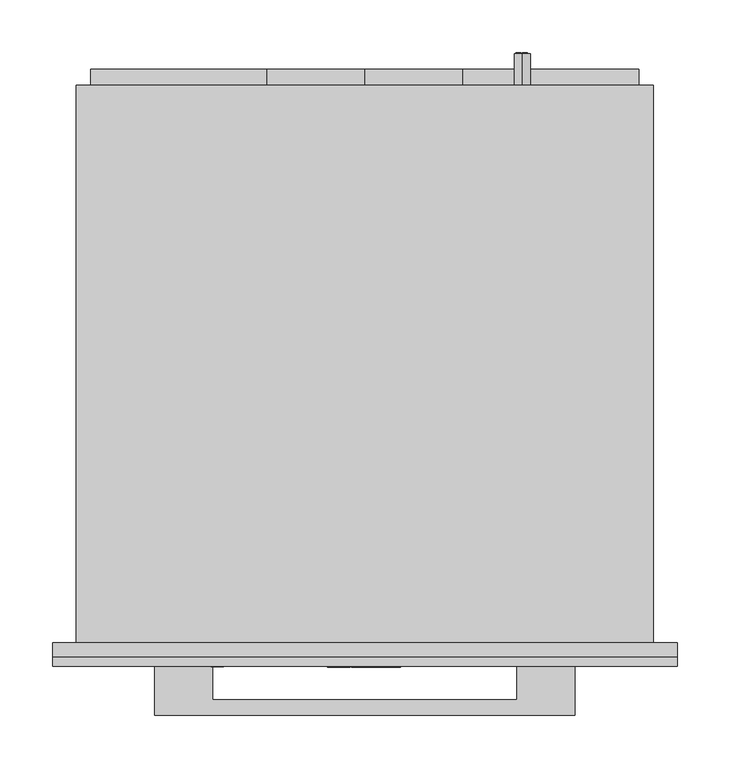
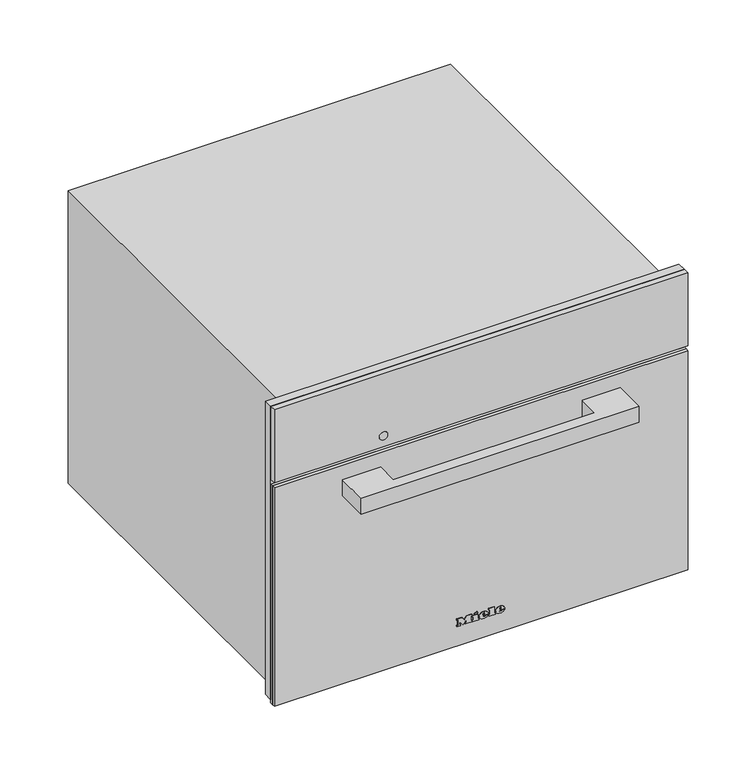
"""IFC4 building model written with IfcOpenShell, lengths in millimetres: proxy geometry, 11099780_F_DG7240_OBSW : 23724020_F_11099780_DG7240_OBSW."""

from ifc_helpers import new_model, si_unit, point, frame, frame_2d, origin, place, context, project, spatial, polyline, circle_curve, ellipse_curve, trimmed, segment, composite_curve, outline, extrude, faceted_brep, source, transform, mapped, element, save
from ifc_brep_helpers import plane_surface, cylinder_surface, revolved_surface, extruded_surface, advanced_brep


def specialty_equipment_cbaed3e9(model_context):
    return source(origin(), model_context, "Body", "SolidModel", [
        extrude(outline(polyline([(455.0, 297.5), (455.0, -297.5), (9.0, -297.5), (9.0, -272.5), (344.0, -272.5), (344.0, 272.5), (9.0, 272.5), (9.0, 297.5), (455.0, 297.5)])), frame((0.0, -13.0, 0.0), z_axis=(0.0, 1.0, 0.0), x_axis=(0.0, 0.0, 1.0)), (0.0, 0.0, 1.0), 13.0),
        advanced_brep(
        [(150.0, 561.0, 410.5), (150.0, 561.0, 395.5), (144.4098301, 561.0, 398.0), (148.5, 561.0, 398.0), (148.5, 561.0, 408.0), (147.4955303, 561.0, 408.0), (147.4955303, 561.0, 399.0), (144.0315043, 561.0, 399.0), (144.0315043, 561.0, 398.4582978), (155.0, 561.0, 398.0), (155.0, 561.0, 408.0), (150.0, 561.0, 408.0), (150.0, 561.0, 407.0), (154.0, 561.0, 407.0), (154.0, 561.0, 403.5), (151.0, 561.0, 403.5), (151.0, 561.0, 402.5), (154.0, 561.0, 402.5), (154.0, 561.0, 399.0), (150.0, 561.0, 399.0), (150.0, 561.0, 398.0), (150.0, 531.0, 395.5), (150.0, 531.0, 410.5), (155.0, 562.0, 408.0), (155.0, 562.0, 398.0), (150.0, 562.0, 398.0), (150.0, 562.0, 399.0), (154.0, 562.0, 399.0), (154.0, 562.0, 402.5), (151.0, 562.0, 402.5), (151.0, 562.0, 403.5), (154.0, 562.0, 403.5), (154.0, 562.0, 407.0), (150.0, 562.0, 407.0), (150.0, 562.0, 408.0), (148.5, 562.0, 398.0), (144.0315043, 562.0, 398.0), (144.0315043, 562.0, 399.0), (147.4955303, 562.0, 399.0), (147.4955303, 562.0, 408.0), (148.5, 562.0, 408.0), (144.0315043, 561.0, 398.0)],
        [
            (0, 1, circle_curve(frame((150.0, 561.0, 403.0), z_axis=(0.0, 1.0, 0.0), x_axis=(0.0, 0.0, 1.0)), 7.5)),
            (1, 2, circle_curve(frame((150.0, 561.0, 403.0), z_axis=(0.0, 1.0, 0.0), x_axis=(0.0, 0.0, 1.0)), 7.5)),
            (2, 3),
            (3, 4),
            (4, 5),
            (5, 6),
            (6, 7),
            (7, 8),
            (8, 0, circle_curve(frame((150.0, 561.0, 403.0), z_axis=(0.0, 1.0, 0.0), x_axis=(0.0, 0.0, 1.0)), 7.5)),
            (9, 10),
            (10, 11),
            (11, 12),
            (12, 13),
            (13, 14),
            (14, 15),
            (15, 16),
            (16, 17),
            (17, 18),
            (18, 19),
            (19, 20),
            (20, 9),
            (21, 22, circle_curve(frame((150.0, 531.0, 403.0), z_axis=(0.0, -1.0, 0.0), x_axis=(0.0, 0.0, 1.0)), 7.5)),
            (22, 21, circle_curve(frame((150.0, 531.0, 403.0), z_axis=(0.0, -1.0, 0.0), x_axis=(0.0, 0.0, 1.0)), 7.5)),
            (0, 22),
            (21, 1),
            (8, 2, circle_curve(frame((150.0, 561.0, 403.0), z_axis=(0.0, -1.0, 0.0), x_axis=(0.0, 0.0, 1.0)), 7.5)),
            (23, 24),
            (24, 25),
            (25, 26),
            (26, 27),
            (27, 28),
            (28, 29),
            (29, 30),
            (30, 31),
            (31, 32),
            (32, 33),
            (33, 34),
            (34, 23),
            (35, 36),
            (36, 37),
            (37, 38),
            (38, 39),
            (39, 40),
            (40, 35),
            (8, 41),
            (41, 2),
            (23, 10),
            (9, 24),
            (20, 25),
            (19, 26),
            (18, 27),
            (17, 28),
            (16, 29),
            (15, 30),
            (14, 31),
            (13, 32),
            (12, 33),
            (11, 34),
            (35, 3),
            (41, 36),
            (7, 37),
            (6, 38),
            (5, 39),
            (4, 40),
        ],
        [
            plane_surface(frame((150.0, 561.0, 410.5), z_axis=(0.0, 1.0, 0.0), x_axis=(1.0, 0.0, 0.0))),
            plane_surface(frame((150.0, 531.0, 410.5), z_axis=(0.0, -1.0, 0.0), x_axis=(-1.0, 0.0, 0.0))),
            cylinder_surface(frame((150.0, 561.0, 403.0), z_axis=(0.0, -1.0, 0.0), x_axis=(0.0, 0.0, 1.0)), 7.5),
            plane_surface(frame((155.0, 562.0, 408.0), z_axis=(0.0, 1.0, 0.0), x_axis=(0.0, 0.0, -1.0))),
            plane_surface(frame((155.0, 561.0, 408.0), z_axis=(0.0, -1.0, 0.0), x_axis=(0.0, 0.0, 1.0))),
            plane_surface(frame((155.0, 562.0, 408.0), z_axis=(1.0, 0.0, 0.0), x_axis=(0.0, -1.0, 0.0))),
            plane_surface(frame((155.0, 562.0, 398.0), z_axis=(0.0, 0.0, -1.0), x_axis=(0.0, -1.0, 0.0))),
            plane_surface(frame((150.0, 562.0, 398.0), z_axis=(-1.0, 0.0, 0.0), x_axis=(0.0, -1.0, 0.0))),
            plane_surface(frame((150.0, 562.0, 399.0), z_axis=(0.0, 0.0, 1.0), x_axis=(0.0, -1.0, 0.0))),
            plane_surface(frame((154.0, 562.0, 399.0), z_axis=(-1.0, 0.0, 0.0), x_axis=(0.0, -1.0, 0.0))),
            plane_surface(frame((154.0, 562.0, 402.5), z_axis=(0.0, 0.0, -1.0), x_axis=(0.0, -1.0, 0.0))),
            plane_surface(frame((151.0, 562.0, 402.5), z_axis=(-1.0, 0.0, 0.0), x_axis=(0.0, -1.0, 0.0))),
            plane_surface(frame((151.0, 562.0, 403.5), z_axis=(0.0, 0.0, 1.0), x_axis=(0.0, -1.0, 0.0))),
            plane_surface(frame((154.0, 562.0, 403.5), z_axis=(-1.0, 0.0, 0.0), x_axis=(0.0, -1.0, 0.0))),
            plane_surface(frame((154.0, 562.0, 407.0), z_axis=(0.0, 0.0, -1.0), x_axis=(0.0, -1.0, 0.0))),
            plane_surface(frame((150.0, 562.0, 407.0), z_axis=(-1.0, 0.0, 0.0), x_axis=(0.0, -1.0, 0.0))),
            plane_surface(frame((150.0, 562.0, 408.0), z_axis=(0.0, 0.0, 1.0), x_axis=(0.0, -1.0, 0.0))),
            plane_surface(frame((148.5, 562.0, 398.0), z_axis=(0.0, 0.0, -1.0), x_axis=(0.0, -1.0, 0.0))),
            plane_surface(frame((144.0315043, 562.0, 398.0), z_axis=(-1.0, 0.0, 0.0), x_axis=(0.0, -1.0, 0.0))),
            plane_surface(frame((144.0315043, 562.0, 399.0), z_axis=(0.0, 0.0, 1.0), x_axis=(0.0, -1.0, 0.0))),
            plane_surface(frame((147.4955303, 562.0, 399.0), z_axis=(-1.0, 0.0, 0.0), x_axis=(0.0, -1.0, 0.0))),
            plane_surface(frame((147.4955303, 562.0, 408.0), z_axis=(0.0, 0.0, 1.0), x_axis=(0.0, -1.0, 0.0))),
            plane_surface(frame((148.5, 562.0, 408.0), z_axis=(1.0, 0.0, 0.0), x_axis=(0.0, -1.0, 0.0))),
        ],
        [
            (0, [[1, 2, 3, 4, 5, 6, 7, 8, 9], [10, 11, 12, 13, 14, 15, 16, 17, 18, 19, 20, 21]]),
            (1, [[22, 23]]),
            (2, [[-1, 24, -22, 25]]),
            (2, [[-23, -24, -9, 26, -2, -25]]),
            (3, [[27, 28, 29, 30, 31, 32, 33, 34, 35, 36, 37, 38]]),
            (3, [[39, 40, 41, 42, 43, 44]]),
            (4, [[45, 46, -26]]),
            (5, [[-27, 47, -10, 48]]),
            (6, [[-28, -48, -21, 49]]),
            (7, [[-29, -49, -20, 50]]),
            (8, [[-30, -50, -19, 51]]),
            (9, [[-31, -51, -18, 52]]),
            (10, [[-32, -52, -17, 53]]),
            (11, [[-33, -53, -16, 54]]),
            (12, [[-34, -54, -15, 55]]),
            (13, [[-35, -55, -14, 56]]),
            (14, [[-36, -56, -13, 57]]),
            (15, [[-37, -57, -12, 58]]),
            (16, [[-38, -58, -11, -47]]),
            (17, [[-39, 59, -3, -46, 60]]),
            (18, [[-40, -60, -45, -8, 61]]),
            (19, [[-41, -61, -7, 62]]),
            (20, [[-42, -62, -6, 63]]),
            (21, [[-43, -63, -5, 64]]),
            (22, [[-44, -64, -4, -59]]),
        ],
    ),
        extrude(outline(polyline([(299.0, -93.0), (258.0, -93.0), (258.0, -261.0), (111.0, -261.0), (111.0, -93.0), (70.0, -93.0), (70.0, 0.0), (70.0, 93.0), (111.0, 93.0), (111.0, 261.0), (258.0, 261.0), (258.0, 93.0), (299.0, 93.0), (299.0, 0.0), (299.0, -93.0)])), frame((0.0, 531.0, 0.0), z_axis=(0.0, 1.0, 0.0), x_axis=(0.0, 0.0, 1.0)), (0.0, 0.0, 1.0), 15.0),
        faceted_brep([(275.0, 531.0, 445.0), (275.0, 531.0, 0.0), (-275.0, 531.0, 0.0), (-275.0, 531.0, 445.0), (275.0, 0.0, 445.0), (-275.0, 0.0, 445.0), (-275.0, 0.0, 0.0), (275.0, 0.0, 0.0), (-272.5, 0.0, 344.0), (272.5, 0.0, 344.0), (272.5, 0.0, 8.0), (-272.5, 0.0, 8.0), (272.5, 34.0, 344.0), (-272.5, 34.0, 344.0), (-272.5, 34.0, 8.0), (272.5, 34.0, 8.0), (161.0, 34.0, 286.0), (161.0, 34.0, 58.0), (-220.0, 34.0, 58.0), (-220.0, 34.0, 286.0), (161.0, 444.0, 286.0), (-220.0, 444.0, 286.0), (-220.0, 444.0, 58.0), (161.0, 444.0, 58.0)], [[[0, 1, 2, 3]], [[4, 5, 6, 7], [8, 9, 10, 11]], [[0, 3, 5, 4]], [[3, 2, 6, 5]], [[2, 1, 7, 6]], [[1, 0, 4, 7]], [[12, 13, 14, 15], [16, 17, 18, 19]], [[13, 12, 9, 8]], [[14, 13, 8, 11]], [[15, 14, 11, 10]], [[12, 15, 10, 9]], [[20, 21, 22, 23]], [[20, 23, 17, 16]], [[23, 22, 18, 17]], [[22, 21, 19, 18]], [[21, 20, 16, 19]]]),
        advanced_brep(
        [(26.2998, -23.0, 36.7018), (26.2998, -23.0, 37.8532), (33.9264, -23.0, 37.8532), (20.6568, -23.0, 37.8532), (23.7918, -23.0, 34.0), (33.7326, -23.0, 36.7018), (30.2898, -23.0, 36.7018), (27.5766, -23.0, 35.425), (26.2998, -23.0, 39.3124), (26.2998, -23.0, 40.555), (28.2492, -23.0, 40.555), (28.2492, -23.0, 39.3124), (26.2998, -22.0, 36.7018), (27.5766, -22.0, 35.425), (30.2898, -22.0, 36.7018), (33.7326, -22.0, 36.7018), (23.7918, -22.0, 34.0), (20.6568, -22.0, 37.8532), (33.9264, -22.0, 37.8532), (26.2998, -22.0, 37.8532), (26.2998, -22.0, 39.3124), (28.2492, -22.0, 39.3124), (28.2492, -22.0, 40.555), (26.2998, -22.0, 40.555)],
        [
            (0, 1),
            (1, 2),
            (2, 3, ellipse_curve(frame((27.2916, -23.0, 37.8532), z_axis=(0.0, -1.0, 0.0), x_axis=(-1.0, 0.0, 0.0)), 6.6348, 5.4834)),
            (3, 4, circle_curve(frame((25.0686622, -23.0, 38.2408), z_axis=(0.0, -1.0, 0.0), x_axis=(0.0, 0.0, -1.0)), 4.4288556)),
            (4, 5, circle_curve(frame((27.1587808, -23.0, 41.2504), z_axis=(0.0, -1.0, 0.0), x_axis=(0.0, 0.0, -1.0)), 7.9940516)),
            (5, 6),
            (6, 7, circle_curve(frame((28.1338588, -23.0, 37.762), z_axis=(0.0, 1.0, 0.0), x_axis=(0.0, 0.0, -1.0)), 2.4025208)),
            (7, 0, circle_curve(frame((27.5766, -23.0, 36.7018), z_axis=(0.0, 1.0, 0.0), x_axis=(0.0, 0.0, -1.0)), 1.2768)),
            (8, 9),
            (9, 10, circle_curve(frame((27.2745, -23.0, 40.555), z_axis=(0.0, 1.0, 0.0), x_axis=(0.0, 0.0, -1.0)), 0.9747)),
            (10, 11),
            (11, 8),
            (12, 13, circle_curve(frame((27.5766, -22.0, 36.7018), z_axis=(0.0, -1.0, 0.0), x_axis=(0.0, 0.0, -1.0)), 1.2768)),
            (13, 14, circle_curve(frame((28.1338588, -22.0, 37.762), z_axis=(0.0, -1.0, 0.0), x_axis=(0.0, 0.0, -1.0)), 2.4025208)),
            (14, 15),
            (15, 16, circle_curve(frame((27.1587808, -22.0, 41.2504), z_axis=(0.0, 1.0, 0.0), x_axis=(0.0, 0.0, -1.0)), 7.9940516)),
            (16, 17, circle_curve(frame((25.0686622, -22.0, 38.2408), z_axis=(0.0, 1.0, 0.0), x_axis=(0.0, 0.0, -1.0)), 4.4288556)),
            (17, 18, ellipse_curve(frame((27.2916, -22.0, 37.8532), z_axis=(0.0, 1.0, 0.0), x_axis=(-1.0, 0.0, 0.0)), 6.6348, 5.4834)),
            (18, 19),
            (19, 12),
            (20, 21),
            (21, 22),
            (22, 23, circle_curve(frame((27.2745, -22.0, 40.555), z_axis=(0.0, -1.0, 0.0), x_axis=(0.0, 0.0, -1.0)), 0.9747)),
            (23, 20),
            (0, 12),
            (19, 1),
            (18, 2),
            (5, 15),
            (14, 6),
            (17, 3),
            (13, 7),
            (16, 4),
            (8, 20),
            (23, 9),
            (22, 10),
            (21, 11),
        ],
        [
            plane_surface(frame((26.2998, -23.0, 37.8532), z_axis=(0.0, -1.0, 0.0), x_axis=(0.0, 0.0, 1.0))),
            plane_surface(frame((26.2998, -22.0, 37.8532), z_axis=(0.0, 1.0, 0.0), x_axis=(0.0, 0.0, -1.0))),
            plane_surface(frame((26.2998, -23.0, 36.7018), z_axis=(1.0, 0.0, 0.0), x_axis=(0.0, 1.0, 0.0))),
            plane_surface(frame((26.2998, -23.0, 37.8532), z_axis=(0.0, 0.0, -1.0), x_axis=(0.0, 1.0, 0.0))),
            plane_surface(frame((33.7326, -23.0, 36.7018), z_axis=(0.0, 0.0, 1.0), x_axis=(0.0, 1.0, 0.0))),
            extruded_surface(trimmed(ellipse_curve(frame((27.2916, -21.0, 37.8532), z_axis=(0.0, -1.0, 0.0), x_axis=(-1.0, 0.0, 0.0)), 6.6348, 5.4834), [point((33.9264, -21.0, 37.8532))], [point((20.6568, -21.0, 37.8532))], True, "CARTESIAN"), (0.0, -1.0, 0.0), 1.0),
            revolved_surface(polyline([(28.1338588, -22.0, 35.3594792), (28.1338588, -23.0, 35.3594792)]), (28.1338588, -22.0, 37.762), (0.0, 1.0, 0.0)),
            revolved_surface(polyline([(27.5766, -22.0, 35.425), (27.5766, -23.0, 35.425)]), (27.5766, -22.0, 36.7018), (0.0, 1.0, 0.0)),
            cylinder_surface(frame((25.0686622, -22.0, 38.2408), z_axis=(0.0, -1.0, 0.0), x_axis=(0.0, 0.0, -1.0)), 4.4288556),
            cylinder_surface(frame((27.1587808, -22.0, 41.2504), z_axis=(0.0, -1.0, 0.0), x_axis=(0.0, 0.0, -1.0)), 7.9940516),
            plane_surface(frame((26.2998, -23.0, 39.3124), z_axis=(1.0, 0.0, 0.0), x_axis=(0.0, 1.0, 0.0))),
            revolved_surface(polyline([(27.2745, -22.0, 39.5803), (27.2745, -23.0, 39.5803)]), (27.2745, -22.0, 40.555), (0.0, 1.0, 0.0)),
            plane_surface(frame((28.2492, -23.0, 40.555), z_axis=(-1.0, 0.0, 0.0), x_axis=(0.0, 1.0, 0.0))),
            plane_surface(frame((28.2492, -23.0, 39.3124), z_axis=(0.0, 0.0, 1.0), x_axis=(0.0, 1.0, 0.0))),
        ],
        [
            (0, [[1, 2, 3, 4, 5, 6, 7, 8], [9, 10, 11, 12]]),
            (1, [[13, 14, 15, 16, 17, 18, 19, 20], [21, 22, 23, 24]]),
            (2, [[-1, 25, -20, 26]]),
            (3, [[-2, -26, -19, 27]]),
            (4, [[-6, 28, -15, 29]]),
            (5, [[-3, -27, -18, 30]]),
            (6, [[-7, -29, -14, 31]]),
            (7, [[-8, -31, -13, -25]]),
            (8, [[-4, -30, -17, 32]]),
            (9, [[-5, -32, -16, -28]]),
            (10, [[-9, 33, -24, 34]]),
            (11, [[-10, -34, -23, 35]]),
            (12, [[-11, -35, -22, 36]]),
            (13, [[-12, -36, -21, -33]]),
        ],
    ),
        advanced_brep(
        [(2.508, -23.0, 36.7018), (2.508, -23.0, 37.8532), (10.1346, -23.0, 37.8532), (-3.135, -23.0, 37.8532), (0.0, -23.0, 34.0), (9.9408, -23.0, 36.7018), (6.498, -23.0, 36.7018), (3.7848, -23.0, 35.425), (2.508, -23.0, 39.3124), (2.508, -23.0, 40.555), (4.4574, -23.0, 40.555), (4.4574, -23.0, 39.3124), (2.508, -22.0, 36.7018), (3.7848, -22.0, 35.425), (6.498, -22.0, 36.7018), (9.9408, -22.0, 36.7018), (0.0, -22.0, 34.0), (-3.135, -22.0, 37.8532), (10.1346, -22.0, 37.8532), (2.508, -22.0, 37.8532), (2.508, -22.0, 39.3124), (4.4574, -22.0, 39.3124), (4.4574, -22.0, 40.555), (2.508, -22.0, 40.555)],
        [
            (0, 1),
            (1, 2),
            (2, 3, ellipse_curve(frame((3.4998, -23.0, 37.8532), z_axis=(0.0, -1.0, 0.0), x_axis=(-1.0, 0.0, 0.0)), 6.6348, 5.4834)),
            (3, 4, circle_curve(frame((1.2768622, -23.0, 38.2408), z_axis=(0.0, -1.0, 0.0), x_axis=(0.0, 0.0, -1.0)), 4.4288556)),
            (4, 5, circle_curve(frame((3.3669808, -23.0, 41.2504), z_axis=(0.0, -1.0, 0.0), x_axis=(0.0, 0.0, -1.0)), 7.9940516)),
            (5, 6),
            (6, 7, circle_curve(frame((4.3420588, -23.0, 37.762), z_axis=(0.0, 1.0, 0.0), x_axis=(0.0, 0.0, -1.0)), 2.4025208)),
            (7, 0, circle_curve(frame((3.7848, -23.0, 36.7018), z_axis=(0.0, 1.0, 0.0), x_axis=(0.0, 0.0, -1.0)), 1.2768)),
            (8, 9),
            (9, 10, circle_curve(frame((3.4827, -23.0, 40.555), z_axis=(0.0, 1.0, 0.0), x_axis=(0.0, 0.0, -1.0)), 0.9747)),
            (10, 11),
            (11, 8),
            (12, 13, circle_curve(frame((3.7848, -22.0, 36.7018), z_axis=(0.0, -1.0, 0.0), x_axis=(0.0, 0.0, -1.0)), 1.2768)),
            (13, 14, circle_curve(frame((4.3420588, -22.0, 37.762), z_axis=(0.0, -1.0, 0.0), x_axis=(0.0, 0.0, -1.0)), 2.4025208)),
            (14, 15),
            (15, 16, circle_curve(frame((3.3669808, -22.0, 41.2504), z_axis=(0.0, 1.0, 0.0), x_axis=(0.0, 0.0, -1.0)), 7.9940516)),
            (16, 17, circle_curve(frame((1.2768622, -22.0, 38.2408), z_axis=(0.0, 1.0, 0.0), x_axis=(0.0, 0.0, -1.0)), 4.4288556)),
            (17, 18, ellipse_curve(frame((3.4998, -22.0, 37.8532), z_axis=(0.0, 1.0, 0.0), x_axis=(-1.0, 0.0, 0.0)), 6.6348, 5.4834)),
            (18, 19),
            (19, 12),
            (20, 21),
            (21, 22),
            (22, 23, circle_curve(frame((3.4827, -22.0, 40.555), z_axis=(0.0, -1.0, 0.0), x_axis=(0.0, 0.0, -1.0)), 0.9747)),
            (23, 20),
            (0, 12),
            (19, 1),
            (18, 2),
            (5, 15),
            (14, 6),
            (17, 3),
            (13, 7),
            (16, 4),
            (8, 20),
            (23, 9),
            (22, 10),
            (21, 11),
        ],
        [
            plane_surface(frame((2.508, -23.0, 37.8532), z_axis=(0.0, -1.0, 0.0), x_axis=(0.0, 0.0, 1.0))),
            plane_surface(frame((2.508, -22.0, 37.8532), z_axis=(0.0, 1.0, 0.0), x_axis=(0.0, 0.0, -1.0))),
            plane_surface(frame((2.508, -23.0, 36.7018), z_axis=(1.0, 0.0, 0.0), x_axis=(0.0, 1.0, 0.0))),
            plane_surface(frame((2.508, -23.0, 37.8532), z_axis=(0.0, 0.0, -1.0), x_axis=(0.0, 1.0, 0.0))),
            plane_surface(frame((9.9408, -23.0, 36.7018), z_axis=(0.0, 0.0, 1.0), x_axis=(0.0, 1.0, 0.0))),
            extruded_surface(trimmed(ellipse_curve(frame((3.4998, -21.0, 37.8532), z_axis=(0.0, -1.0, 0.0), x_axis=(-1.0, 0.0, 0.0)), 6.6348, 5.4834), [point((10.1346, -21.0, 37.8532))], [point((-3.135, -21.0, 37.8532))], True, "CARTESIAN"), (0.0, -1.0, 0.0), 1.0),
            revolved_surface(polyline([(4.3420588, -22.0, 35.3594792), (4.3420588, -23.0, 35.3594792)]), (4.3420588, -22.0, 37.762), (0.0, 1.0, 0.0)),
            revolved_surface(polyline([(3.7848, -22.0, 35.425), (3.7848, -23.0, 35.425)]), (3.7848, -22.0, 36.7018), (0.0, 1.0, 0.0)),
            cylinder_surface(frame((1.2768622, -22.0, 38.2408), z_axis=(0.0, -1.0, 0.0), x_axis=(0.0, 0.0, -1.0)), 4.4288556),
            cylinder_surface(frame((3.3669808, -22.0, 41.2504), z_axis=(0.0, -1.0, 0.0), x_axis=(0.0, 0.0, -1.0)), 7.9940516),
            plane_surface(frame((2.508, -23.0, 39.3124), z_axis=(1.0, 0.0, 0.0), x_axis=(0.0, 1.0, 0.0))),
            revolved_surface(polyline([(3.4827, -22.0, 39.5803), (3.4827, -23.0, 39.5803)]), (3.4827, -22.0, 40.555), (0.0, 1.0, 0.0)),
            plane_surface(frame((4.4574, -23.0, 40.555), z_axis=(-1.0, 0.0, 0.0), x_axis=(0.0, 1.0, 0.0))),
            plane_surface(frame((4.4574, -23.0, 39.3124), z_axis=(0.0, 0.0, 1.0), x_axis=(0.0, 1.0, 0.0))),
        ],
        [
            (0, [[1, 2, 3, 4, 5, 6, 7, 8], [9, 10, 11, 12]]),
            (1, [[13, 14, 15, 16, 17, 18, 19, 20], [21, 22, 23, 24]]),
            (2, [[-1, 25, -20, 26]]),
            (3, [[-2, -26, -19, 27]]),
            (4, [[-6, 28, -15, 29]]),
            (5, [[-3, -27, -18, 30]]),
            (6, [[-7, -29, -14, 31]]),
            (7, [[-8, -31, -13, -25]]),
            (8, [[-4, -30, -17, 32]]),
            (9, [[-5, -32, -16, -28]]),
            (10, [[-9, 33, -24, 34]]),
            (11, [[-10, -34, -23, 35]]),
            (12, [[-11, -35, -22, 36]]),
            (13, [[-12, -36, -21, -33]]),
        ],
    ),
        extrude(outline(polyline([(44.7274, -9.9522), (42.8806, -9.0858), (44.6818, -5.2212), (46.5286, -6.0762), (44.7274, -9.9522)])), frame((0.0, -23.0, 0.0), z_axis=(0.0, 1.0, 0.0), x_axis=(0.0, 0.0, 1.0)), (0.0, 0.0, 1.0), 1.0),
        extrude(outline(polyline([(42.6298, -12.768), (40.5892, -12.768), (40.5892, -11.4114), (35.9152, -11.4114), (35.9152, -12.768), (34.0, -12.768), (34.0, -3.7734), (35.9152, -3.7734), (35.9152, -5.0958), (42.6298, -5.0958), (42.6298, -12.768)])), frame((0.0, -23.0, 0.0), z_axis=(0.0, 1.0, 0.0), x_axis=(0.0, 0.0, 1.0)), (0.0, 0.0, 1.0), 1.0),
        extrude(outline(polyline([(43.5418, 10.773), (43.5418, 12.141), (35.9152, 12.141), (35.9152, 10.773), (34.0, 10.773), (34.0, 20.0184), (35.9152, 20.0184), (35.9152, 18.6162), (45.4, 18.6162), (45.4, 10.773), (43.5418, 10.773)])), frame((0.0, -23.0, 0.0), z_axis=(0.0, 1.0, 0.0), x_axis=(0.0, 0.0, 1.0)), (0.0, 0.0, 1.0), 1.0),
        extrude(outline(polyline([(43.5418, -35.4882), (43.5418, -34.1088), (35.9152, -34.1088), (35.9152, -35.4882), (34.0, -35.4882), (34.0, -30.4722), (35.9152, -30.4722), (35.9152, -31.8402), (40.7429247, -31.8402), (34.0, -26.7444), (40.9402223, -21.6258), (35.9152, -21.6258), (35.9152, -23.028), (34.0, -23.028), (34.0, -13.9308), (35.9152, -13.9308), (35.9152, -15.3786), (43.5418, -15.3786), (43.5418, -13.9308), (45.4, -13.9308), (45.4, -20.8734), (41.125, -24.2022), (45.4, -27.5424), (45.4, -35.4882), (43.5418, -35.4882)])), frame((0.0, -23.0, 0.0), z_axis=(0.0, 1.0, 0.0), x_axis=(0.0, 0.0, 1.0)), (0.0, 0.0, 1.0), 1.0),
        extrude(outline(polyline([(297.5, -22.0), (-297.5, -22.0), (-297.5, -13.0), (297.5, -13.0), (297.5, -22.0)])), frame((0.0, 0.0, 344.0), z_axis=(0.0, 0.0, 1.0), x_axis=(1.0, 0.0, 0.0)), (0.0, 0.0, 1.0), 111.0),
        extrude(outline(composite_curve([segment(trimmed(circle_curve(frame_2d((361.0, -140.5745637)), 6.0), [point((361.0, -146.5745637))], [point((361.0, -134.5745637))], False, "CARTESIAN"), True, "CONTINUOUS"), segment(trimmed(circle_curve(frame_2d((361.0, -140.5745637)), 6.0), [point((361.0, -134.5745637))], [point((361.0, -146.5745637))], False, "CARTESIAN"), True, "CONTINUOUS")], self_intersect=False)), frame((0.0, -22.5, 0.0), z_axis=(0.0, 1.0, 0.0), x_axis=(0.0, 0.0, 1.0)), (0.0, 0.0, 1.0), 1.0),
        extrude(outline(polyline([(-297.5, -18.0), (297.5, -18.0), (297.5, -22.0), (-297.5, -22.0), (-297.5, -18.0)])), frame((0.0, 0.0, 4.0), z_axis=(0.0, 0.0, 1.0), x_axis=(1.0, 0.0, 0.0)), (0.0, 0.0, 1.0), 333.0),
        extrude(outline(polyline([(297.5, -18.0), (-297.5, -18.0), (-297.5, -13.0), (297.5, -13.0), (297.5, -18.0)])), frame((0.0, 0.0, 4.0), z_axis=(0.0, 0.0, 1.0), x_axis=(1.0, 0.0, 0.0)), (0.0, 0.0, 1.0), 333.0),
        extrude(outline(polyline([(-200.0, -69.0), (-200.0, -22.0), (-145.0, -22.0), (-145.0, -54.0), (145.0, -54.0), (145.0, -22.0), (200.0, -22.0), (200.0, -69.0), (-200.0, -69.0)])), frame((0.0, 0.0, 291.0), z_axis=(0.0, 0.0, 1.0), x_axis=(1.0, 0.0, 0.0)), (0.0, 0.0, 1.0), 24.0),
    ])


if __name__ == "__main__":
    model = new_model("IFC4")
    model_context = context("Model", 3, world=origin())
    ifc_project = project(units=[si_unit("LENGTHUNIT", "METRE", prefix="MILLI")], contexts=[model_context])
    site = spatial("IfcSite", under=ifc_project)
    building = spatial("IfcBuilding", under=site)
    placement = place(None, origin())
    specialty_equipment_shape = specialty_equipment_cbaed3e9(model_context)
    element("IfcBuildingElementProxy", 1, Name="11099780_F_DG7240_OBSW : 23724020_F_11099780_DG7240_OBSW", ObjectType="11099780_F_DG7240_OBSW : 23724020_F_11099780_DG7240_OBSW", at=placement, inside=building, context=model_context, shape_type="MappedRepresentation", body=[
        mapped(specialty_equipment_shape, transform((0.0, 0.0, 0.0), x_axis=(1.0, 0.0, 0.0), y_axis=(0.0, 1.0, 0.0), z_axis=(0.0, 0.0, 1.0))),
    ])
    save(model, "model.ifc")
